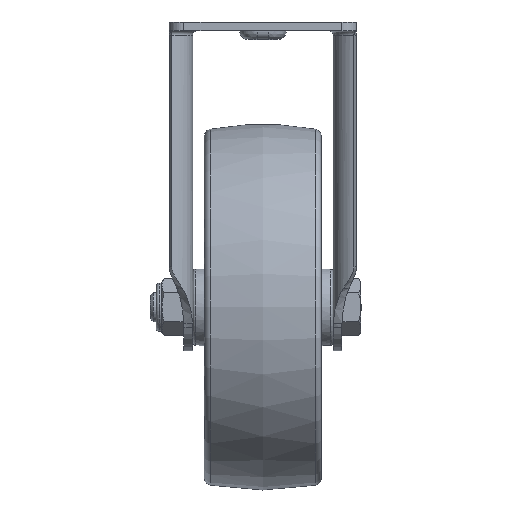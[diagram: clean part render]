
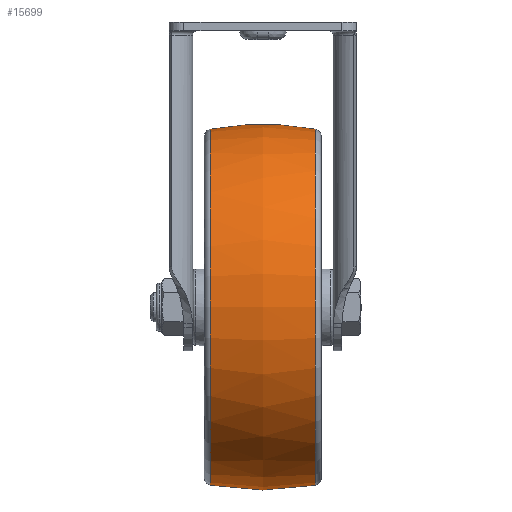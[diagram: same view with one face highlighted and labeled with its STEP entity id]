
A CAD part, left-side view. The second image highlights one B-rep face of the part: STEP entity #15699.
In plain terms, the highlighted free-form (B-spline) face has degree [2, 2] with [3, 9] control points.
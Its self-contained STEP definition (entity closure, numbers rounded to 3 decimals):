
#98=(
BOUNDED_SURFACE()
B_SPLINE_SURFACE(2,2,((#23576,#23577,#23578,#23579,#23580,#23581,#23582,
#23583,#23584),(#23585,#23586,#23587,#23588,#23589,#23590,#23591,#23592,
#23593),(#23594,#23595,#23596,#23597,#23598,#23599,#23600,#23601,#23602)),
 .UNSPECIFIED.,.F.,.T.,.F.)
B_SPLINE_SURFACE_WITH_KNOTS((3,3),(3,2,2,2,3),(-0.18,0.18),
(-3.142,-1.571,0.,1.571,3.142),
 .UNSPECIFIED.)
GEOMETRIC_REPRESENTATION_ITEM()
RATIONAL_B_SPLINE_SURFACE(((1.,0.707,1.,0.707,1.,
0.707,1.,0.707,1.),(0.984,0.696,
0.984,0.696,0.984,0.696,0.984,
0.696,0.984),(1.,0.707,1.,0.707,
1.,0.707,1.,0.707,1.)))
REPRESENTATION_ITEM('')
SURFACE()
);
#165=CIRCLE('',#16438,60.876);
#167=CIRCLE('',#16440,60.876);
#168=CIRCLE('',#16441,100.);
#1875=FACE_OUTER_BOUND('',#2791,.T.);
#2791=EDGE_LOOP('',(#12419,#12420,#12421,#12422));
#6971=VERTEX_POINT('',#23573);
#6972=VERTEX_POINT('',#23603);
#8913=EDGE_CURVE('',#6971,#6971,#165,.T.);
#8915=EDGE_CURVE('',#6972,#6972,#167,.T.);
#8916=EDGE_CURVE('',#6972,#6971,#168,.T.);
#12419=ORIENTED_EDGE('',*,*,#8915,.F.);
#12420=ORIENTED_EDGE('',*,*,#8916,.T.);
#12421=ORIENTED_EDGE('',*,*,#8913,.T.);
#12422=ORIENTED_EDGE('',*,*,#8916,.F.);
#15699=ADVANCED_FACE('',(#1875),#98,.F.);
#16438=AXIS2_PLACEMENT_3D('',#23574,#18181,#18182);
#16440=AXIS2_PLACEMENT_3D('',#23604,#18185,#18186);
#16441=AXIS2_PLACEMENT_3D('',#23605,#18187,#18188);
#18181=DIRECTION('center_axis',(0.,-1.,0.));
#18182=DIRECTION('ref_axis',(0.,0.,
-1.));
#18185=DIRECTION('center_axis',(0.,-1.,0.));
#18186=DIRECTION('ref_axis',(0.,0.,
-1.));
#18187=DIRECTION('center_axis',(-1.,0.,0.));
#18188=DIRECTION('ref_axis',(0.,0.,1.));
#23573=CARTESIAN_POINT('',(0.,17.949,-36.624));
#23574=CARTESIAN_POINT('Origin',(0.,17.949,-97.5));
#23576=CARTESIAN_POINT('Ctrl Pts',(0.,17.949,
-36.624));
#23577=CARTESIAN_POINT('Ctrl Pts',(-60.876,17.949,-36.624));
#23578=CARTESIAN_POINT('Ctrl Pts',(-60.876,17.949,-97.5));
#23579=CARTESIAN_POINT('Ctrl Pts',(-60.876,17.949,-158.376));
#23580=CARTESIAN_POINT('Ctrl Pts',(0.,17.949,
-158.376));
#23581=CARTESIAN_POINT('Ctrl Pts',(60.876,17.949,-158.376));
#23582=CARTESIAN_POINT('Ctrl Pts',(60.876,17.949,-97.5));
#23583=CARTESIAN_POINT('Ctrl Pts',(60.876,17.949,-36.624));
#23584=CARTESIAN_POINT('Ctrl Pts',(0.,17.949,
-36.624));
#23585=CARTESIAN_POINT('Ctrl Pts',(0.,0.,
-33.349));
#23586=CARTESIAN_POINT('Ctrl Pts',(-64.151,0.,
-33.349));
#23587=CARTESIAN_POINT('Ctrl Pts',(-64.151,0.,
-97.5));
#23588=CARTESIAN_POINT('Ctrl Pts',(-64.151,0.,
-161.651));
#23589=CARTESIAN_POINT('Ctrl Pts',(0.,0.,
-161.651));
#23590=CARTESIAN_POINT('Ctrl Pts',(64.151,0.,
-161.651));
#23591=CARTESIAN_POINT('Ctrl Pts',(64.151,0.,
-97.5));
#23592=CARTESIAN_POINT('Ctrl Pts',(64.151,0.,
-33.349));
#23593=CARTESIAN_POINT('Ctrl Pts',(0.,0.,
-33.349));
#23594=CARTESIAN_POINT('Ctrl Pts',(0.,-17.949,
-36.624));
#23595=CARTESIAN_POINT('Ctrl Pts',(-60.876,-17.949,
-36.624));
#23596=CARTESIAN_POINT('Ctrl Pts',(-60.876,-17.949,
-97.5));
#23597=CARTESIAN_POINT('Ctrl Pts',(-60.876,-17.949,
-158.376));
#23598=CARTESIAN_POINT('Ctrl Pts',(0.,-17.949,
-158.376));
#23599=CARTESIAN_POINT('Ctrl Pts',(60.876,-17.949,-158.376));
#23600=CARTESIAN_POINT('Ctrl Pts',(60.876,-17.949,-97.5));
#23601=CARTESIAN_POINT('Ctrl Pts',(60.876,-17.949,-36.624));
#23602=CARTESIAN_POINT('Ctrl Pts',(0.,-17.949,
-36.624));
#23603=CARTESIAN_POINT('',(0.,-17.949,-36.624));
#23604=CARTESIAN_POINT('Origin',(0.,-17.949,
-97.5));
#23605=CARTESIAN_POINT('Origin',(0.,0.,
-135.));
